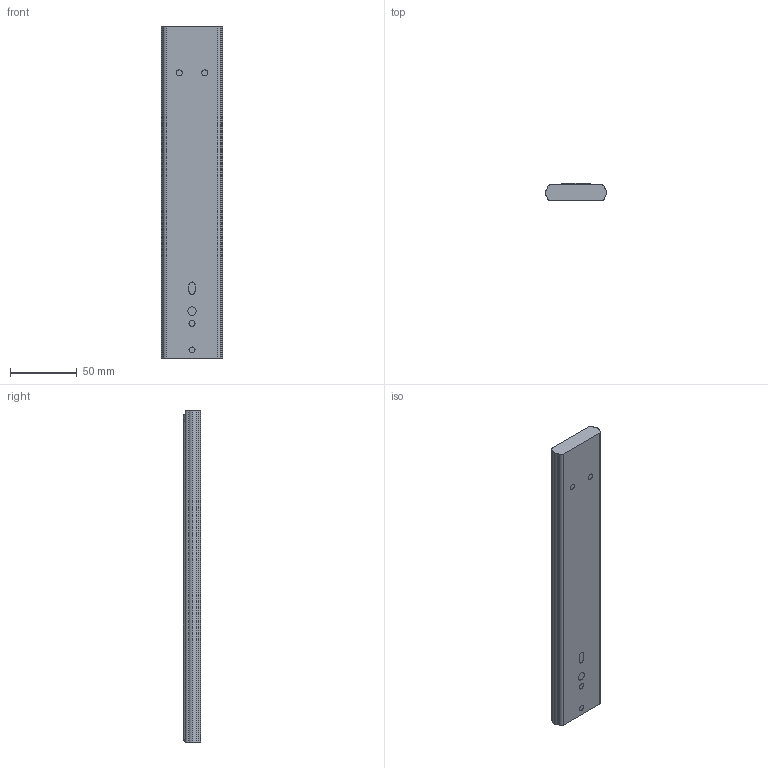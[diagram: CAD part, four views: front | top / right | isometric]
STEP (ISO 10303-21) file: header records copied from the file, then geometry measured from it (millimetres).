
FILE_DESCRIPTION (( 'STEP AP203' ), '1' );
FILE_NAME ('4587110H(¹Ø).STEP', '2020-02-13T08:59:06', ( 'ZZG' ), ( 'Microsoft' ), 'SwSTEP 2.0', 'SolidWorks 2012', '' );
FILE_SCHEMA (( 'CONFIG_CONTROL_DESIGN' ));
Length unit declared in the file: millimetre
Products named in the file (1): 4587110H(壽)
Bounding box: 45.57 x 12.7 x 248 mm (x, y, z)
Volume: 129905.3 mm3; surface area: 27823.1 mm2
Topology: 1 solids, 1 shells, 149 faces, 406 edges, 270 vertices
Faces by surface type: cylinder 77, plane 62, cone 6, bspline 4
Entity records: 4989 total; most frequent: CARTESIAN_POINT 1070, ORIENTED_EDGE 812, DIRECTION 812, EDGE_CURVE 406, AXIS2_PLACEMENT_3D 294, VERTEX_POINT 270, LINE 224, VECTOR 224
